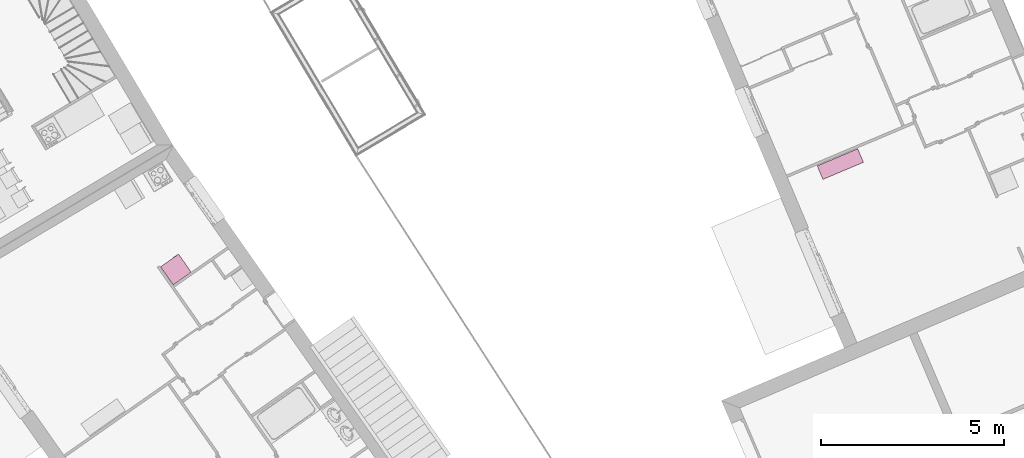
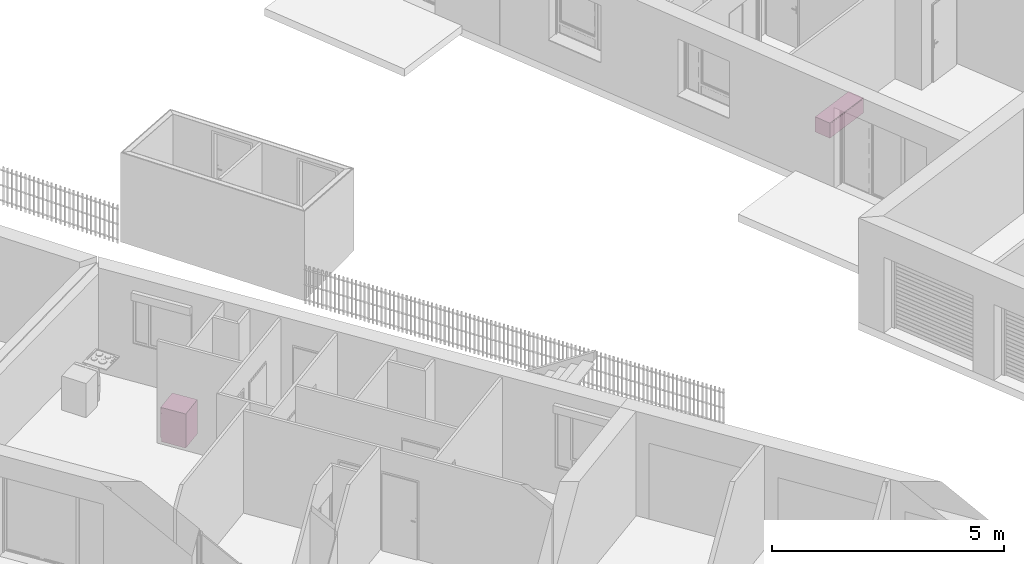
# One storey, part 156 of 195: 2 furnishings.
"""IFC2X3 building model written with IfcOpenShell, lengths in metres."""

from ifc_helpers import new_model, entity, si_unit, converted_unit, derived_unit, money_unit, direction, frame, origin_with_axes, place, context, subcontext, project, spatial, open_shell, faceted_brep, surface_model, source, transform, mapped, type_object, element, save


model = new_model("IFC2X3")

# Units and contexts
model_context = context("Model", 3, precision=1e-05, world=origin_with_axes(), true_north=direction((0.0, 1.0)))
body_context = subcontext(model_context, "Body", "Model", "MODEL_VIEW")
ifc_project = project(units=[si_unit("LENGTHUNIT", "METRE"), si_unit("AREAUNIT", "SQUARE_METRE"), si_unit("VOLUMEUNIT", "CUBIC_METRE"), converted_unit("PLANEANGLEUNIT", "DEGREE", entity("IfcPlaneAngleMeasure", 0.0174532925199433), si_unit("PLANEANGLEUNIT", "RADIAN"), dimensions=[0, 0, 0, 0, 0, 0, 0]), money_unit("CHF"), converted_unit("TIMEUNIT", "Year", entity("IfcTimeMeasure", 31557600.0), si_unit("TIMEUNIT", "SECOND"), dimensions=[0, 0, 1, 0, 0, 0, 0]), si_unit("MASSUNIT", "GRAM", prefix="KILO"), si_unit("THERMODYNAMICTEMPERATUREUNIT", "DEGREE_CELSIUS"), si_unit("LUMINOUSINTENSITYUNIT", "LUMEN"), si_unit("ENERGYUNIT", "JOULE", prefix="MEGA"), derived_unit("THERMALCONDUCTANCEUNIT", [(si_unit("POWERUNIT", "WATT"), 1), (si_unit("LENGTHUNIT", "METRE"), -1), (si_unit("THERMODYNAMICTEMPERATUREUNIT", "KELVIN"), -1)]), derived_unit("SPECIFICHEATCAPACITYUNIT", [(si_unit("ENERGYUNIT", "JOULE"), 1), (si_unit("MASSUNIT", "GRAM", prefix="KILO"), -1), (si_unit("THERMODYNAMICTEMPERATUREUNIT", "KELVIN"), -1)]), derived_unit("MASSDENSITYUNIT", [(si_unit("MASSUNIT", "GRAM", prefix="KILO"), 1), (si_unit("VOLUMEUNIT", "CUBIC_METRE"), -1)])], contexts=[model_context])

# Site, building, storey
site_placement = place(None, origin_with_axes())
site = spatial("IfcSite", under=ifc_project, at=site_placement, Name="Site", CompositionType="ELEMENT")
building_placement = place(site_placement, origin_with_axes())
building = spatial("IfcBuilding", under=site, at=building_placement, Name="Bâtiment", CompositionType="ELEMENT")
storey_placement = place(building_placement, origin_with_axes())
storey = spatial("IfcBuildingStorey", under=building, at=storey_placement, Name="rdc", CompositionType="ELEMENT", Elevation=0.0)

# Furnishings
furnishing_element_type_1 = type_object("IfcFurnishingElementType", Name="Machine à laver")
shared_shape_1 = source(origin_with_axes(), body_context, "Body", "SurfaceModel", [
    faceted_brep([(0.0, 0.02, 0.1), (0.6, 0.02, 0.1), (0.6, 0.0, 0.1), (0.0, 0.0, 0.1), (0.0, 0.02000000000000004, 0.74), (0.6, 0.02000000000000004, 0.74), (0.4714285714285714, 0.02000000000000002, 0.42), (0.4655872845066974, 0.02000000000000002, 0.4643689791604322), (0.448461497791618, 0.02000000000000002, 0.5057142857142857), (0.4212183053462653, 0.02000000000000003, 0.5412183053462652), (0.3857142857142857, 0.02000000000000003, 0.568461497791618), (0.3443689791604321, 0.02000000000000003, 0.5855872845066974), (0.3, 0.02000000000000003, 0.5914285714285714), (0.2556310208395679, 0.02000000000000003, 0.5855872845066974), (0.2142857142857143, 0.02000000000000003, 0.5684614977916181), (0.1787816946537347, 0.02000000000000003, 0.5412183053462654), (0.1515385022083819, 0.02000000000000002, 0.5057142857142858), (0.1344127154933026, 0.02000000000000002, 0.4643689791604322), (0.1285714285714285, 0.02000000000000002, 0.42), (0.1344127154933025, 0.02000000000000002, 0.3756310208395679), (0.1515385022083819, 0.02000000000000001, 0.3342857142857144), (0.1787816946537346, 0.02000000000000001, 0.2987816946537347), (0.2142857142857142, 0.02000000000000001, 0.2715385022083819), (0.2556310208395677, 0.02000000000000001, 0.2544127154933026), (0.2999999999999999, 0.02000000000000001, 0.2485714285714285), (0.344368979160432, 0.02000000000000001, 0.2544127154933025), (0.3857142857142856, 0.02000000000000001, 0.2715385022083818), (0.4212183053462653, 0.02000000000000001, 0.2987816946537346), (0.448461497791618, 0.02000000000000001, 0.3342857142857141), (0.4655872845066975, 0.02000000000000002, 0.3756310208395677), (0.6, 0.0, 0.74), (0.0, 0.0, 0.74), (0.4714285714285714, 0.0, 0.42), (0.4655872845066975, 0.0, 0.3756310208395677), (0.448461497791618, 0.0, 0.3342857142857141), (0.4212183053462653, 0.0, 0.2987816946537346), (0.3857142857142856, 0.0, 0.2715385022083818), (0.344368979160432, 0.0, 0.2544127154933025), (0.2999999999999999, 0.0, 0.2485714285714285), (0.2556310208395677, 0.0, 0.2544127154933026), (0.2142857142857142, 0.0, 0.2715385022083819), (0.1787816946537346, 0.0, 0.2987816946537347), (0.1515385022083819, 0.0, 0.3342857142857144), (0.1344127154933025, 0.0, 0.3756310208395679), (0.1285714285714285, 0.0, 0.42), (0.1344127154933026, 0.0, 0.4643689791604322), (0.1515385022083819, 0.0, 0.5057142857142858), (0.1787816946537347, 0.0, 0.5412183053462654), (0.2142857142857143, 0.0, 0.5684614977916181), (0.2556310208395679, 0.0, 0.5855872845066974), (0.3, 0.0, 0.5914285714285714), (0.3443689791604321, 0.0, 0.5855872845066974), (0.3857142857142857, 0.0, 0.568461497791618), (0.4212183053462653, 0.0, 0.5412183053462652), (0.448461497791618, 0.0, 0.5057142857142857), (0.4655872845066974, 0.0, 0.4643689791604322)], [[[0, 1, 2, 3]], [[0, 4, 5, 1], [6, 7, 8, 9, 10, 11, 12, 13, 14, 15, 16, 17, 18, 19, 20, 21, 22, 23, 24, 25, 26, 27, 28, 29]], [[1, 5, 30, 2]], [[3, 2, 30, 31], [32, 33, 34, 35, 36, 37, 38, 39, 40, 41, 42, 43, 44, 45, 46, 47, 48, 49, 50, 51, 52, 53, 54, 55]], [[4, 0, 3, 31]], [[5, 4, 31, 30]], [[7, 6, 32, 55]], [[8, 7, 55, 54]], [[9, 8, 54, 53]], [[10, 9, 53, 52]], [[11, 10, 52, 51]], [[12, 11, 51, 50]], [[13, 12, 50, 49]], [[14, 13, 49, 48]], [[15, 14, 48, 47]], [[16, 15, 47, 46]], [[17, 16, 46, 45]], [[18, 17, 45, 44]], [[19, 18, 44, 43]], [[20, 19, 43, 42]], [[21, 20, 42, 41]], [[22, 21, 41, 40]], [[23, 22, 40, 39]], [[24, 23, 39, 38]], [[25, 24, 38, 37]], [[26, 25, 37, 36]], [[27, 26, 36, 35]], [[28, 27, 35, 34]], [[29, 28, 34, 33]], [[6, 29, 33, 32]]]),
    faceted_brep([(0.4714285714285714, 0.04000000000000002, 0.42), (0.4655872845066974, 0.04000000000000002, 0.4643689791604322), (0.4655872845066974, 0.02000000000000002, 0.4643689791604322), (0.4714285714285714, 0.02000000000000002, 0.42), (0.4655872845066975, 0.04000000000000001, 0.3756310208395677), (0.448461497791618, 0.04000000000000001, 0.3342857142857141), (0.4212183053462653, 0.04000000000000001, 0.2987816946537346), (0.3857142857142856, 0.04000000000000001, 0.2715385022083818), (0.344368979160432, 0.04000000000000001, 0.2544127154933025), (0.2999999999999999, 0.04000000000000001, 0.2485714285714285), (0.2556310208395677, 0.04000000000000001, 0.2544127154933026), (0.2142857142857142, 0.04000000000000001, 0.2715385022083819), (0.1787816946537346, 0.04000000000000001, 0.2987816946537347), (0.1515385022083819, 0.04000000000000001, 0.3342857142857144), (0.1344127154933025, 0.04000000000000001, 0.3756310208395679), (0.1285714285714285, 0.04000000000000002, 0.42), (0.1344127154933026, 0.04000000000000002, 0.4643689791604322), (0.1515385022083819, 0.04000000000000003, 0.5057142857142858), (0.1787816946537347, 0.04000000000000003, 0.5412183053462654), (0.2142857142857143, 0.04000000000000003, 0.5684614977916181), (0.2556310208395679, 0.04000000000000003, 0.5855872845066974), (0.3, 0.04000000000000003, 0.5914285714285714), (0.3443689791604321, 0.04000000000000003, 0.5855872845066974), (0.3857142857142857, 0.04000000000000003, 0.568461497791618), (0.4212183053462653, 0.04000000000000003, 0.5412183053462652), (0.448461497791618, 0.04000000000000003, 0.5057142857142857), (0.4371428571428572, 0.04000000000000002, 0.42), (0.432469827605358, 0.04000000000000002, 0.4554951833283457), (0.4187691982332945, 0.04000000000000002, 0.4885714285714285), (0.3969746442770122, 0.04000000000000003, 0.5169746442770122), (0.3685714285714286, 0.04000000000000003, 0.5387691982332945), (0.3354951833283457, 0.04000000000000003, 0.552469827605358), (0.3, 0.04000000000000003, 0.5571428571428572), (0.2645048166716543, 0.04000000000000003, 0.552469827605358), (0.2314285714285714, 0.04000000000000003, 0.5387691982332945), (0.2030253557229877, 0.04000000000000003, 0.5169746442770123), (0.1812308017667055, 0.04000000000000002, 0.4885714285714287), (0.167530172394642, 0.04000000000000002, 0.4554951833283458), (0.1628571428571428, 0.04000000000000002, 0.42), (0.167530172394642, 0.04000000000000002, 0.3845048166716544), (0.1812308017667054, 0.04000000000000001, 0.3514285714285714), (0.2030253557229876, 0.04000000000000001, 0.3230253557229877), (0.2314285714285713, 0.04000000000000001, 0.3012308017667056), (0.2645048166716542, 0.04000000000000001, 0.287530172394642), (0.2999999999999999, 0.04000000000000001, 0.2828571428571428), (0.3354951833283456, 0.04000000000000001, 0.287530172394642), (0.3685714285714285, 0.04000000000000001, 0.3012308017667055), (0.3969746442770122, 0.04000000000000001, 0.3230253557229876), (0.4187691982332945, 0.04000000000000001, 0.3514285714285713), (0.432469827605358, 0.04000000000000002, 0.3845048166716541), (0.448461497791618, 0.02000000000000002, 0.5057142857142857), (0.4212183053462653, 0.02000000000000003, 0.5412183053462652), (0.3857142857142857, 0.02000000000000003, 0.568461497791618), (0.3443689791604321, 0.02000000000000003, 0.5855872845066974), (0.3, 0.02000000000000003, 0.5914285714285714), (0.2556310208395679, 0.02000000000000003, 0.5855872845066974), (0.2142857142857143, 0.02000000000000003, 0.5684614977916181), (0.1787816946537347, 0.02000000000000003, 0.5412183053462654), (0.1515385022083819, 0.02000000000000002, 0.5057142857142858), (0.1344127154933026, 0.02000000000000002, 0.4643689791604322), (0.1285714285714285, 0.02000000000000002, 0.42), (0.1344127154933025, 0.02000000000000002, 0.3756310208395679), (0.1515385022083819, 0.02000000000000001, 0.3342857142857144), (0.1787816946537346, 0.02000000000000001, 0.2987816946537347), (0.2142857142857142, 0.02000000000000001, 0.2715385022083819), (0.2556310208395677, 0.02000000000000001, 0.2544127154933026), (0.2999999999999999, 0.02000000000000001, 0.2485714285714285), (0.344368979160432, 0.02000000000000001, 0.2544127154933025), (0.3857142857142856, 0.02000000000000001, 0.2715385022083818), (0.4212183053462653, 0.02000000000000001, 0.2987816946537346), (0.448461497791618, 0.02000000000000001, 0.3342857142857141), (0.4655872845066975, 0.02000000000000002, 0.3756310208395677), (0.4371428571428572, 0.02000000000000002, 0.42), (0.432469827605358, 0.02000000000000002, 0.3845048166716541), (0.4187691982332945, 0.02000000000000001, 0.3514285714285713), (0.3969746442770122, 0.02000000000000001, 0.3230253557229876), (0.3685714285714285, 0.02000000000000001, 0.3012308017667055), (0.3354951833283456, 0.02000000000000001, 0.287530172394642), (0.2999999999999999, 0.02000000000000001, 0.2828571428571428), (0.2645048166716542, 0.02000000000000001, 0.287530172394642), (0.2314285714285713, 0.02000000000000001, 0.3012308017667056), (0.2030253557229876, 0.02000000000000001, 0.3230253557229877), (0.1812308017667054, 0.02000000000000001, 0.3514285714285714), (0.167530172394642, 0.02000000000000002, 0.3845048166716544), (0.1628571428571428, 0.02000000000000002, 0.42), (0.167530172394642, 0.02000000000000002, 0.4554951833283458), (0.1812308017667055, 0.02000000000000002, 0.4885714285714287), (0.2030253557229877, 0.02000000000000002, 0.5169746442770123), (0.2314285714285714, 0.02000000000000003, 0.5387691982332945), (0.2645048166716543, 0.02000000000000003, 0.552469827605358), (0.3, 0.02000000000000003, 0.5571428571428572), (0.3354951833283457, 0.02000000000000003, 0.552469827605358), (0.3685714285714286, 0.02000000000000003, 0.5387691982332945), (0.3969746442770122, 0.02000000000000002, 0.5169746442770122), (0.4187691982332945, 0.02000000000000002, 0.4885714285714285), (0.432469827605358, 0.02000000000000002, 0.4554951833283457)], [[[0, 1, 2, 3]], [[0, 4, 5, 6, 7, 8, 9, 10, 11, 12, 13, 14, 15, 16, 17, 18, 19, 20, 21, 22, 23, 24, 25, 1], [26, 27, 28, 29, 30, 31, 32, 33, 34, 35, 36, 37, 38, 39, 40, 41, 42, 43, 44, 45, 46, 47, 48, 49]], [[1, 25, 50, 2]], [[3, 2, 50, 51, 52, 53, 54, 55, 56, 57, 58, 59, 60, 61, 62, 63, 64, 65, 66, 67, 68, 69, 70, 71], [72, 73, 74, 75, 76, 77, 78, 79, 80, 81, 82, 83, 84, 85, 86, 87, 88, 89, 90, 91, 92, 93, 94, 95]], [[4, 0, 3, 71]], [[5, 4, 71, 70]], [[6, 5, 70, 69]], [[7, 6, 69, 68]], [[8, 7, 68, 67]], [[9, 8, 67, 66]], [[10, 9, 66, 65]], [[11, 10, 65, 64]], [[12, 11, 64, 63]], [[13, 12, 63, 62]], [[14, 13, 62, 61]], [[15, 14, 61, 60]], [[16, 15, 60, 59]], [[17, 16, 59, 58]], [[18, 17, 58, 57]], [[19, 18, 57, 56]], [[20, 19, 56, 55]], [[21, 20, 55, 54]], [[22, 21, 54, 53]], [[23, 22, 53, 52]], [[24, 23, 52, 51]], [[25, 24, 51, 50]], [[27, 26, 72, 95]], [[28, 27, 95, 94]], [[29, 28, 94, 93]], [[30, 29, 93, 92]], [[31, 30, 92, 91]], [[32, 31, 91, 90]], [[33, 32, 90, 89]], [[34, 33, 89, 88]], [[35, 34, 88, 87]], [[36, 35, 87, 86]], [[37, 36, 86, 85]], [[38, 37, 85, 84]], [[39, 38, 84, 83]], [[40, 39, 83, 82]], [[41, 40, 82, 81]], [[42, 41, 81, 80]], [[43, 42, 80, 79]], [[44, 43, 79, 78]], [[45, 44, 78, 77]], [[46, 45, 77, 76]], [[47, 46, 76, 75]], [[48, 47, 75, 74]], [[49, 48, 74, 73]], [[26, 49, 73, 72]]]),
    surface_model("IfcShellBasedSurfaceModel", [(0.2645048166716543, 0.03999999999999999, 0.552469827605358), (0.3, 0.03999999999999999, 0.5571428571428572), (0.3, 0.14, 0.5228571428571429), (0.2733786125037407, 0.14, 0.5193523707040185), (0.3354951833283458, 0.03999999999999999, 0.552469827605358), (0.3266213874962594, 0.14, 0.5193523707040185), (0.3514285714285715, 0.14, 0.5090768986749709), (0.3727309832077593, 0.14, 0.4927309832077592), (0.3890768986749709, 0.14, 0.4714285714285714), (0.3993523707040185, 0.14, 0.4466213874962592), (0.4028571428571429, 0.14, 0.42), (0.3993523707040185, 0.14, 0.3933786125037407), (0.3890768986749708, 0.14, 0.3685714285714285), (0.3727309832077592, 0.14, 0.3472690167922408), (0.3514285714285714, 0.14, 0.3309231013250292), (0.3266213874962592, 0.14, 0.3206476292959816), (0.2999999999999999, 0.14, 0.3171428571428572), (0.2733786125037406, 0.14, 0.3206476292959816), (0.2485714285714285, 0.14, 0.3309231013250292), (0.2272690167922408, 0.14, 0.3472690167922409), (0.2109231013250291, 0.14, 0.3685714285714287), (0.2006476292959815, 0.14, 0.3933786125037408), (0.1971428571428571, 0.14, 0.4200000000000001), (0.2006476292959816, 0.14, 0.4466213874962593), (0.2109231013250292, 0.14, 0.4714285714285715), (0.2272690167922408, 0.14, 0.4927309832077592), (0.2485714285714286, 0.14, 0.5090768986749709), (0.2314285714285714, 0.03999999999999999, 0.5387691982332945), (0.3685714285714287, 0.03999999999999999, 0.5387691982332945), (0.3969746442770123, 0.03999999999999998, 0.5169746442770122), (0.4187691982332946, 0.03999999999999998, 0.4885714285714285), (0.432469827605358, 0.03999999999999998, 0.4554951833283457), (0.4371428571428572, 0.03999999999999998, 0.4199999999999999), (0.432469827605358, 0.03999999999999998, 0.3845048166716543), (0.4187691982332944, 0.03999999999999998, 0.3514285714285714), (0.3969746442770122, 0.03999999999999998, 0.3230253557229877), (0.3685714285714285, 0.03999999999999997, 0.3012308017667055), (0.3354951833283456, 0.03999999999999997, 0.2875301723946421), (0.2999999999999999, 0.03999999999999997, 0.2828571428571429), (0.2645048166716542, 0.03999999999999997, 0.2875301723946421), (0.2314285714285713, 0.03999999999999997, 0.3012308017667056), (0.2030253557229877, 0.03999999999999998, 0.3230253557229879), (0.1812308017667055, 0.03999999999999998, 0.3514285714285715), (0.167530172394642, 0.03999999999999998, 0.3845048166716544), (0.1628571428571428, 0.03999999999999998, 0.4200000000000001), (0.167530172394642, 0.03999999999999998, 0.4554951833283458), (0.1812308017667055, 0.03999999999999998, 0.4885714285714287), (0.2030253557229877, 0.03999999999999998, 0.5169746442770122)], [open_shell([[[0, 1, 2, 3]], [[1, 4, 5, 2]], [[2, 5, 6, 7, 8, 9, 10, 11, 12, 13, 14, 15, 16, 17, 18, 19, 20, 21, 22, 23, 24, 25, 26, 3]], [[27, 0, 3, 26]], [[4, 28, 6, 5]], [[28, 29, 7, 6]], [[29, 30, 8, 7]], [[30, 31, 9, 8]], [[31, 32, 10, 9]], [[32, 33, 11, 10]], [[33, 34, 12, 11]], [[34, 35, 13, 12]], [[35, 36, 14, 13]], [[36, 37, 15, 14]], [[37, 38, 16, 15]], [[38, 39, 17, 16]], [[39, 40, 18, 17]], [[40, 41, 19, 18]], [[41, 42, 20, 19]], [[42, 43, 21, 20]], [[43, 44, 22, 21]], [[44, 45, 23, 22]], [[45, 46, 24, 23]], [[46, 47, 25, 24]], [[47, 27, 26, 25]]])]),
    surface_model("IfcShellBasedSurfaceModel", [(0.0, 0.02, 0.1), (0.0, 0.02000000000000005, 0.87), (0.0, 0.6, 0.87), (0.0, 0.6, 0.09999999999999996)], [open_shell([[[0, 1, 2, 3]]])]),
    surface_model("IfcShellBasedSurfaceModel", [(0.6, 0.01999999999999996, 0.1), (0.6, 0.02000000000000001, 0.87), (0.6, 0.5999999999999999, 0.87), (0.6, 0.5999999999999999, 0.09999999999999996)], [open_shell([[[0, 1, 2, 3]]])]),
    surface_model("IfcShellBasedSurfaceModel", [(0.0, 0.6, 0.1), (0.0, 0.6, 0.87), (0.6, 0.6, 0.87), (0.6, 0.6, 0.1)], [open_shell([[[0, 1, 2, 3]]])]),
    faceted_brep([(0.0, 0.02, 0.0), (0.6, 0.02, 0.0), (0.6, 0.02, 0.1), (0.0, 0.02, 0.1), (0.0, 0.6, 0.0), (0.6, 0.6, 0.0), (0.6, 0.6, 0.1), (0.0, 0.6, 0.1)], [[[0, 1, 2, 3]], [[0, 4, 5, 1]], [[1, 5, 6, 2]], [[3, 2, 6, 7]], [[4, 0, 3, 7]], [[5, 4, 7, 6]]]),
    faceted_brep([(0.0, 0.02, 0.75), (0.6, 0.02, 0.75), (0.6, 0.0, 0.75), (0.0, 0.0, 0.75), (0.0, 0.02000000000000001, 0.86), (0.6, 0.02000000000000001, 0.86), (0.6, 0.0, 0.86), (0.0, 0.0, 0.86)], [[[0, 1, 2, 3]], [[0, 4, 5, 1]], [[1, 5, 6, 2]], [[3, 2, 6, 7]], [[4, 0, 3, 7]], [[5, 4, 7, 6]]]),
    surface_model("IfcShellBasedSurfaceModel", [(0.0, 0.02, 0.74), (0.0, 0.02000000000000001, 0.87), (0.6, 0.02000000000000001, 0.87), (0.6, 0.02, 0.74)], [open_shell([[[0, 1, 2, 3]]])]),
    faceted_brep([(0.0, 0.0, 0.87), (0.6, 0.0, 0.87), (0.6, 0.0, 0.9), (0.0, 0.0, 0.9), (0.0, 0.6, 0.87), (0.6, 0.6, 0.87), (0.6, 0.6, 0.9), (0.0, 0.6, 0.9)], [[[0, 1, 2, 3]], [[0, 4, 5, 1]], [[1, 5, 6, 2]], [[3, 2, 6, 7]], [[4, 0, 3, 7]], [[5, 4, 7, 6]]]),
    faceted_brep([(0.06866025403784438, 0.0, 0.8049999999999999), (0.06499999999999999, 0.0, 0.8013397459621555), (0.05999999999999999, 0.0, 0.7999999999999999), (0.05499999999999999, 0.0, 0.8013397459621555), (0.05133974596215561, 0.0, 0.8049999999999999), (0.05, 0.0, 0.8099999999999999), (0.05133974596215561, 0.0, 0.815), (0.055, 0.0, 0.8186602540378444), (0.06, 0.0, 0.82), (0.065, 0.0, 0.8186602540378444), (0.06866025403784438, 0.0, 0.815), (0.06999999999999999, 0.0, 0.8099999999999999), (0.06866025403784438, -0.01, 0.8049999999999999), (0.06499999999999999, -0.01, 0.8013397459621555), (0.05999999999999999, -0.01, 0.7999999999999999), (0.05499999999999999, -0.01, 0.8013397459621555), (0.05133974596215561, -0.01, 0.8049999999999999), (0.05, -0.01, 0.8099999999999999), (0.05133974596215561, -0.01, 0.815), (0.055, -0.01, 0.8186602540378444), (0.06, -0.01, 0.82), (0.065, -0.01, 0.8186602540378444), (0.06866025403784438, -0.01, 0.815), (0.06999999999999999, -0.01, 0.8099999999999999)], [[[0, 1, 2, 3, 4, 5, 6, 7, 8, 9, 10, 11]], [[1, 0, 12, 13]], [[2, 1, 13, 14]], [[3, 2, 14, 15]], [[4, 3, 15, 16]], [[5, 4, 16, 17]], [[6, 5, 17, 18]], [[7, 6, 18, 19]], [[8, 7, 19, 20]], [[9, 8, 20, 21]], [[10, 9, 21, 22]], [[11, 10, 22, 23]], [[0, 11, 23, 12]], [[12, 23, 22, 21, 20, 19, 18, 17, 16, 15, 14, 13]]]),
    faceted_brep([(0.1086602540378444, 0.0, 0.8049999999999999), (0.105, 0.0, 0.8013397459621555), (0.09999999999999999, 0.0, 0.7999999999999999), (0.095, 0.0, 0.8013397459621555), (0.09133974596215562, 0.0, 0.8049999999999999), (0.09000000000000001, 0.0, 0.8099999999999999), (0.09133974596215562, 0.0, 0.815), (0.095, 0.0, 0.8186602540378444), (0.1, 0.0, 0.82), (0.105, 0.0, 0.8186602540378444), (0.1086602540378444, 0.0, 0.815), (0.11, 0.0, 0.8099999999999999), (0.1086602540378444, -0.01, 0.8049999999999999), (0.105, -0.01, 0.8013397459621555), (0.09999999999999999, -0.01, 0.7999999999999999), (0.095, -0.01, 0.8013397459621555), (0.09133974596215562, -0.01, 0.8049999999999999), (0.09000000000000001, -0.01, 0.8099999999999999), (0.09133974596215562, -0.01, 0.815), (0.095, -0.01, 0.8186602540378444), (0.1, -0.01, 0.82), (0.105, -0.01, 0.8186602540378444), (0.1086602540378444, -0.01, 0.815), (0.11, -0.01, 0.8099999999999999)], [[[0, 1, 2, 3, 4, 5, 6, 7, 8, 9, 10, 11]], [[1, 0, 12, 13]], [[2, 1, 13, 14]], [[3, 2, 14, 15]], [[4, 3, 15, 16]], [[5, 4, 16, 17]], [[6, 5, 17, 18]], [[7, 6, 18, 19]], [[8, 7, 19, 20]], [[9, 8, 20, 21]], [[10, 9, 21, 22]], [[11, 10, 22, 23]], [[0, 11, 23, 12]], [[12, 23, 22, 21, 20, 19, 18, 17, 16, 15, 14, 13]]]),
    faceted_brep([(0.1486602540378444, 0.0, 0.8049999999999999), (0.145, 0.0, 0.8013397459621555), (0.14, 0.0, 0.7999999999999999), (0.135, 0.0, 0.8013397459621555), (0.1313397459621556, 0.0, 0.8049999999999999), (0.13, 0.0, 0.8099999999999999), (0.1313397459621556, 0.0, 0.815), (0.135, 0.0, 0.8186602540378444), (0.14, 0.0, 0.82), (0.145, 0.0, 0.8186602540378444), (0.1486602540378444, 0.0, 0.815), (0.15, 0.0, 0.8099999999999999), (0.1486602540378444, -0.01, 0.8049999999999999), (0.145, -0.01, 0.8013397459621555), (0.14, -0.01, 0.7999999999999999), (0.135, -0.01, 0.8013397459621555), (0.1313397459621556, -0.01, 0.8049999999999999), (0.13, -0.01, 0.8099999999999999), (0.1313397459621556, -0.01, 0.815), (0.135, -0.01, 0.8186602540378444), (0.14, -0.01, 0.82), (0.145, -0.01, 0.8186602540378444), (0.1486602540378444, -0.01, 0.815), (0.15, -0.01, 0.8099999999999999)], [[[0, 1, 2, 3, 4, 5, 6, 7, 8, 9, 10, 11]], [[1, 0, 12, 13]], [[2, 1, 13, 14]], [[3, 2, 14, 15]], [[4, 3, 15, 16]], [[5, 4, 16, 17]], [[6, 5, 17, 18]], [[7, 6, 18, 19]], [[8, 7, 19, 20]], [[9, 8, 20, 21]], [[10, 9, 21, 22]], [[11, 10, 22, 23]], [[0, 11, 23, 12]], [[12, 23, 22, 21, 20, 19, 18, 17, 16, 15, 14, 13]]]),
    faceted_brep([(0.1886602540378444, 0.0, 0.8049999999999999), (0.185, 0.0, 0.8013397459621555), (0.18, 0.0, 0.7999999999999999), (0.175, 0.0, 0.8013397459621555), (0.1713397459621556, 0.0, 0.8049999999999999), (0.17, 0.0, 0.8099999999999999), (0.1713397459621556, 0.0, 0.815), (0.175, 0.0, 0.8186602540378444), (0.18, 0.0, 0.82), (0.185, 0.0, 0.8186602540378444), (0.1886602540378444, 0.0, 0.815), (0.19, 0.0, 0.8099999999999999), (0.1886602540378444, -0.01, 0.8049999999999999), (0.185, -0.01, 0.8013397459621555), (0.18, -0.01, 0.7999999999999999), (0.175, -0.01, 0.8013397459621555), (0.1713397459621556, -0.01, 0.8049999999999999), (0.17, -0.01, 0.8099999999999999), (0.1713397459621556, -0.01, 0.815), (0.175, -0.01, 0.8186602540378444), (0.18, -0.01, 0.82), (0.185, -0.01, 0.8186602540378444), (0.1886602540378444, -0.01, 0.815), (0.19, -0.01, 0.8099999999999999)], [[[0, 1, 2, 3, 4, 5, 6, 7, 8, 9, 10, 11]], [[1, 0, 12, 13]], [[2, 1, 13, 14]], [[3, 2, 14, 15]], [[4, 3, 15, 16]], [[5, 4, 16, 17]], [[6, 5, 17, 18]], [[7, 6, 18, 19]], [[8, 7, 19, 20]], [[9, 8, 20, 21]], [[10, 9, 21, 22]], [[11, 10, 22, 23]], [[0, 11, 23, 12]], [[12, 23, 22, 21, 20, 19, 18, 17, 16, 15, 14, 13]]]),
])
furnishing_1_placement = place(storey_placement, frame((9549.975351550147, -1054.245221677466, 57.7), z_axis=(0.0, 0.0, 1.0), x_axis=(-0.8187432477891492, -0.5741598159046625, 0.0)))
element("IfcFurnishingElement", 1, at=furnishing_1_placement, inside=storey, type_object=furnishing_element_type_1, Name="Obj.-019", context=body_context, shape_type="MappedRepresentation", body=[
    mapped(shared_shape_1, transform((0.0, 0.0, 0.0))),
])
furnishing_element_type_2 = type_object("IfcFurnishingElementType", Name="Meuble à plans 27")
shared_shape_2 = source(origin_with_axes(), body_context, "Body", "SurfaceModel", [
    surface_model("IfcShellBasedSurfaceModel", [(-1.18, 0.02, 0.0), (-1.18, 0.4, 0.0), (-0.02, 0.4, 0.0), (-0.02, 0.02, 0.0)], [open_shell([[[0, 1, 2, 3]]])]),
    faceted_brep([(0.0, 0.4, 0.0), (0.0, 0.0, 0.0), (-1.2, 0.0, 0.0), (-1.2, 0.4, 0.0), (0.0, 0.4, 0.4), (0.0, 0.0, 0.4), (-1.2, 0.0, 0.4), (-0.02, 0.0, 0.02), (-1.18, 0.0, 0.02), (-1.18, 0.0, 0.38), (-0.02, 0.0, 0.38), (-1.2, 0.4, 0.4), (-0.02, 0.4, 0.01999999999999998), (-0.02, 0.4, 0.38), (-1.18, 0.4, 0.38), (-1.18, 0.4, 0.01999999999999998)], [[[0, 1, 2, 3]], [[4, 5, 1, 0]], [[1, 5, 6, 2], [7, 8, 9, 10]], [[3, 2, 6, 11]], [[0, 3, 11, 4], [12, 13, 14, 15]], [[11, 6, 5, 4]], [[15, 8, 7, 12]], [[14, 9, 8, 15]], [[13, 10, 9, 14]], [[12, 7, 10, 13]]]),
    faceted_brep([(-1.18, 0.4, 0.01999999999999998), (-1.18, 0.4, 0.38), (-0.02, 0.4, 0.38), (-0.02, 0.4, 0.01999999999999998), (-1.18, 0.38, 0.01999999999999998), (-1.18, 0.3800000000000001, 0.38), (-0.02, 0.3800000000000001, 0.38), (-0.02, 0.38, 0.01999999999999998)], [[[0, 1, 2, 3]], [[0, 4, 5, 1]], [[1, 5, 6, 2]], [[2, 6, 7, 3]], [[3, 7, 4, 0]], [[7, 6, 5, 4]]]),
    faceted_brep([(-1.18, 0.0, 0.02), (-1.18, 0.38, 0.02), (-0.02, 0.38, 0.02), (-0.02, 0.0, 0.02), (-1.18, 0.0, 0.3750000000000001), (-1.18, 0.38, 0.3750000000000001), (-0.02, 0.38, 0.3750000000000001), (-0.02, 0.0, 0.3750000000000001)], [[[0, 1, 2, 3]], [[0, 4, 5, 1]], [[1, 5, 6, 2]], [[2, 6, 7, 3]], [[3, 7, 4, 0]], [[7, 6, 5, 4]]]),
])
furnishing_2_placement = place(storey_placement, frame((9568.64998691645, -1051.740878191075, 57.92018680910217), z_axis=(0.0, 0.0, 1.0), x_axis=(0.9214205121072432, 0.3885669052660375, 0.0)))
element("IfcFurnishingElement", 2, at=furnishing_2_placement, inside=storey, type_object=furnishing_element_type_2, Name="Obj.-376", context=body_context, shape_type="MappedRepresentation", body=[
    mapped(shared_shape_2, transform((0.0, 0.0, 0.0))),
])

save(model, "model.ifc")
